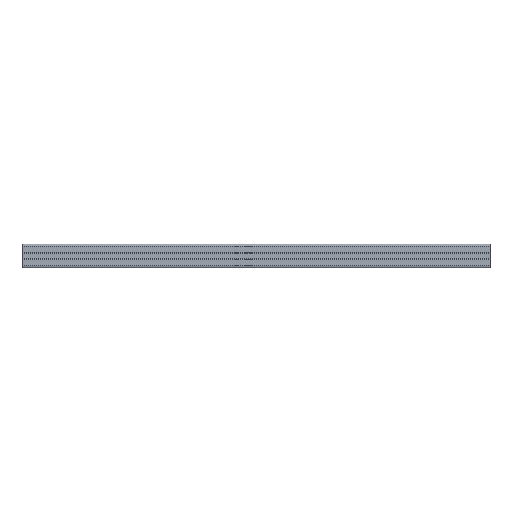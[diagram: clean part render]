
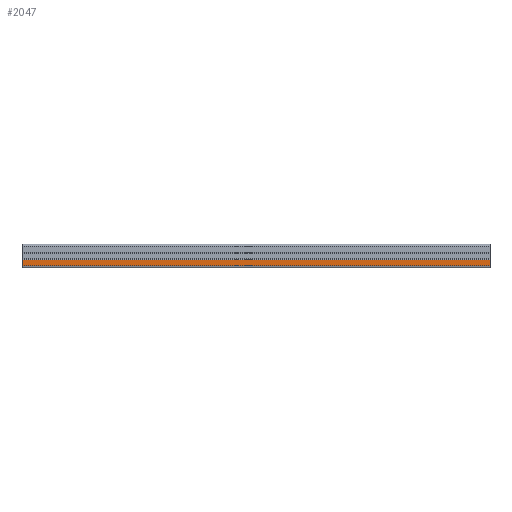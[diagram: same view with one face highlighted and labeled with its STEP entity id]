
A CAD part, front view. The second image highlights one B-rep face of the part: STEP entity #2047.
In plain terms, the highlighted free-form (B-spline) face has degree [1, 1] with [2, 2] control points.
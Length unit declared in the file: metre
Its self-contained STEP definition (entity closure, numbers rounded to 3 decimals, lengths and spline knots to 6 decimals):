
#25=B_SPLINE_SURFACE_WITH_KNOTS('',1,1,((#2998,#2999),(#3000,#3001)),
 .PLANE_SURF.,.F.,.F.,.F.,(2,2),(2,2),(0.,1.),(0.,1.),.UNSPECIFIED.);
#115=LINE('',#2995,#315);
#116=LINE('',#3002,#316);
#117=LINE('',#3004,#317);
#118=LINE('',#3006,#318);
#315=VECTOR('',#2366,1.);
#316=VECTOR('',#2369,1.);
#317=VECTOR('',#2370,1.);
#318=VECTOR('',#2371,1.);
#570=ORIENTED_EDGE('',*,*,#1178,.T.);
#571=ORIENTED_EDGE('',*,*,#1180,.F.);
#572=ORIENTED_EDGE('',*,*,#1181,.F.);
#573=ORIENTED_EDGE('',*,*,#1182,.T.);
#1178=EDGE_CURVE('',#1471,#1470,#115,.T.);
#1180=EDGE_CURVE('',#1472,#1470,#116,.T.);
#1181=EDGE_CURVE('',#1473,#1472,#117,.T.);
#1182=EDGE_CURVE('',#1473,#1471,#118,.T.);
#1470=VERTEX_POINT('',#2994);
#1471=VERTEX_POINT('',#2996);
#1472=VERTEX_POINT('',#3003);
#1473=VERTEX_POINT('',#3005);
#1775=EDGE_LOOP('',(#570,#571,#572,#573));
#1883=FACE_BOUND('',#1775,.T.);
#2047=ADVANCED_FACE('',(#1883),#25,.T.);
#2366=DIRECTION('',(1.,0.,0.));
#2369=DIRECTION('',(0.,0.,-1.));
#2370=DIRECTION('',(1.,0.,0.));
#2371=DIRECTION('',(0.,0.,-1.));
#2994=CARTESIAN_POINT('',(0.426235,-0.01,-0.103479));
#2995=CARTESIAN_POINT('',(0.026235,-0.01,-0.103479));
#2996=CARTESIAN_POINT('',(0.026235,-0.01,-0.103479));
#2998=CARTESIAN_POINT('',(0.006235,-0.01,-0.097849));
#2999=CARTESIAN_POINT('',(0.446235,-0.01,-0.097849));
#3000=CARTESIAN_POINT('',(0.006235,-0.01,-0.103748));
#3001=CARTESIAN_POINT('',(0.446235,-0.01,-0.103748));
#3002=CARTESIAN_POINT('',(0.426235,-0.01,-0.100798));
#3003=CARTESIAN_POINT('',(0.426235,-0.01,-0.098117));
#3004=CARTESIAN_POINT('',(0.026235,-0.01,-0.098117));
#3005=CARTESIAN_POINT('',(0.026235,-0.01,-0.098117));
#3006=CARTESIAN_POINT('',(0.026235,-0.01,-0.100798));
